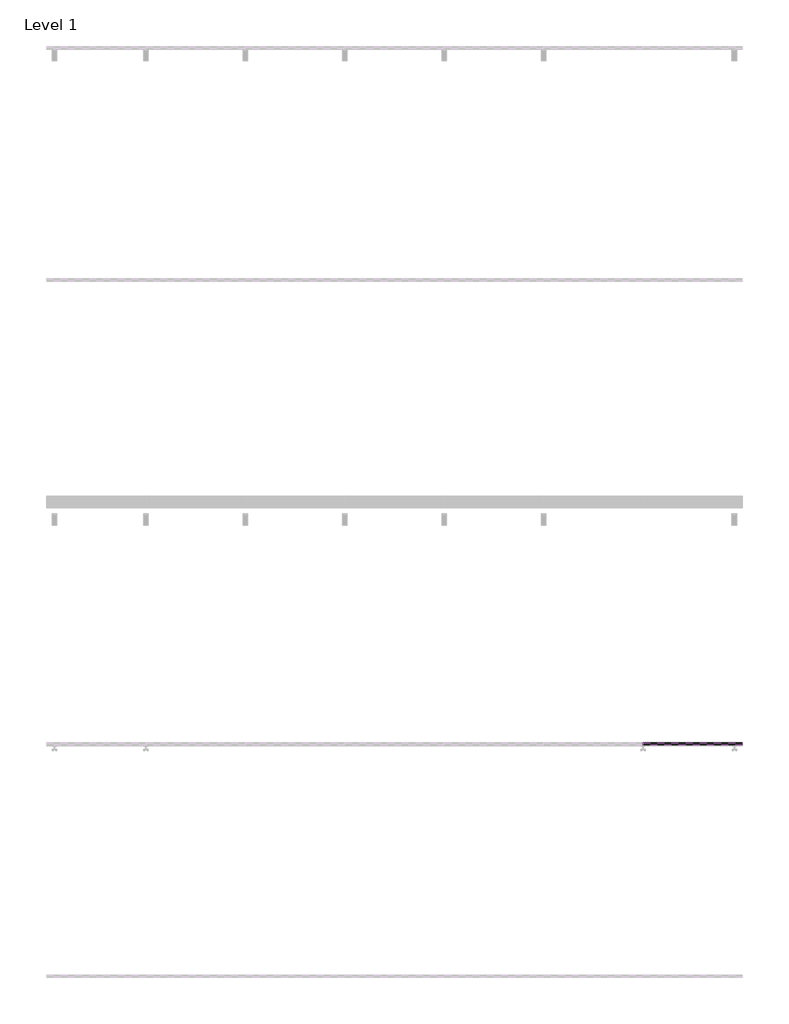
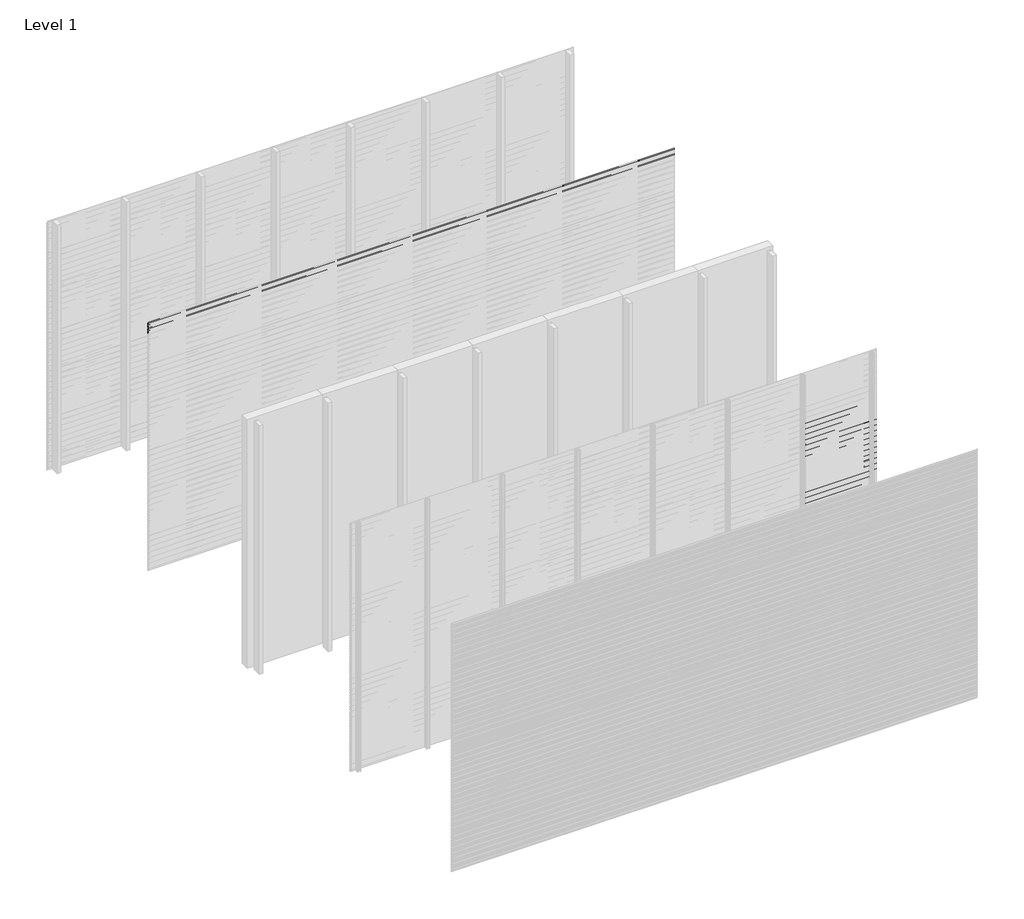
# One storey, part 31 of 96: 77 proxies.
"""IFC4 building model written with IfcOpenShell, lengths in millimetres."""

from ifc_helpers import new_model, si_unit, frame, origin, place, context, project, spatial, polyline, outline, extrude, element, save

model = new_model("IFC4")

# Units and contexts
model_context = context("Model", 3, world=origin())
ifc_project = project(units=[si_unit("LENGTHUNIT", "METRE", prefix="MILLI")], contexts=[model_context])

# Site, building, storey
site = spatial("IfcSite", under=ifc_project)
building = spatial("IfcBuilding", under=site)
storey = spatial("IfcBuildingStorey", under=building, Name="Level 1", Elevation=0.0)

# Proxies
placement = place(None, origin())
element("IfcBuildingElementProxy", 1, Name="Wall Sweeps", at=placement, inside=storey, context=model_context, shape_type="SweptSolid", body=[
    extrude(outline(polyline([(-37977.6, 2971.7655033), (-37977.6, 2957.4779188), (-37982.4114965, 2954.7), (-37982.4114965, 2955.9701706), (-37978.85, 2958.0264016), (-37978.85, 2971.0437382), (-37998.0, 2982.1000799), (-37998.0, 2997.0), (-37996.75, 2997.0), (-37996.75, 2982.8217609), (-37977.6, 2971.7655033)])), frame((0.0, 0.0, 0.0), z_axis=(1.0, 0.0, 0.0), x_axis=(0.0, 1.0, 0.0)), (0.0, 0.0, 1.0), 6000.0),
])
element("IfcBuildingElementProxy", 2, Name="Wall Sweeps", at=placement, inside=storey, context=model_context, shape_type="SweptSolid", body=[
    extrude(outline(polyline([(-37977.6, 2938.4655033), (-37977.6, 2924.1779188), (-37982.4114965, 2921.4), (-37982.4114965, 2922.6701706), (-37978.85, 2924.7264016), (-37978.85, 2937.7437382), (-37998.0, 2948.8000799), (-37998.0, 2963.7), (-37996.75, 2963.7), (-37996.75, 2949.5217609), (-37977.6, 2938.4655033)])), frame((0.0, 0.0, 0.0), z_axis=(1.0, 0.0, 0.0), x_axis=(0.0, 1.0, 0.0)), (0.0, 0.0, 1.0), 6000.0),
])
element("IfcBuildingElementProxy", 3, Name="Wall Sweeps", at=placement, inside=storey, context=model_context, shape_type="SweptSolid", body=[
    extrude(outline(polyline([(-37977.6, 2905.1655033), (-37977.6, 2890.8779188), (-37982.4114965, 2888.1), (-37982.4114965, 2889.3701706), (-37978.85, 2891.4264016), (-37978.85, 2904.4437382), (-37998.0, 2915.5000799), (-37998.0, 2930.4), (-37996.75, 2930.4), (-37996.75, 2916.2217609), (-37977.6, 2905.1655033)])), frame((0.0, 0.0, 0.0), z_axis=(1.0, 0.0, 0.0), x_axis=(0.0, 1.0, 0.0)), (0.0, 0.0, 1.0), 6000.0),
])
element("IfcBuildingElementProxy", 4, Name="Wall Sweeps", at=placement, inside=storey, context=model_context, shape_type="SweptSolid", body=[
    extrude(outline(polyline([(-37977.6, 2871.8655033), (-37977.6, 2857.5779188), (-37982.4114965, 2854.8), (-37982.4114965, 2856.0701706), (-37978.85, 2858.1264016), (-37978.85, 2871.1437382), (-37998.0, 2882.2000799), (-37998.0, 2897.1), (-37996.75, 2897.1), (-37996.75, 2882.9217609), (-37977.6, 2871.8655033)])), frame((0.0, 0.0, 0.0), z_axis=(1.0, 0.0, 0.0), x_axis=(0.0, 1.0, 0.0)), (0.0, 0.0, 1.0), 6000.0),
])
element("IfcBuildingElementProxy", 5, Name="Wall Sweeps", at=placement, inside=storey, context=model_context, shape_type="SweptSolid", body=[
    extrude(outline(polyline([(-41977.6, 2405.6655033), (-41977.6, 2391.3779188), (-41982.4114965, 2388.6), (-41982.4114965, 2389.8701706), (-41978.85, 2391.9264016), (-41978.85, 2404.9437382), (-41998.0, 2416.0000799), (-41998.0, 2430.9), (-41996.75, 2430.9), (-41996.75, 2416.7217609), (-41977.6, 2405.6655033)])), frame((5142.8571429, 0.0, 0.0), z_axis=(1.0, 0.0, 0.0), x_axis=(0.0, 1.0, 0.0)), (0.0, 0.0, 1.0), 857.1428571),
])
element("IfcBuildingElementProxy", 6, Name="Wall Sweeps", at=placement, inside=storey, context=model_context, shape_type="SweptSolid", body=[
    extrude(outline(polyline([(-41977.6, 2372.3655033), (-41977.6, 2358.0779188), (-41982.4114965, 2355.3), (-41982.4114965, 2356.5701706), (-41978.85, 2358.6264016), (-41978.85, 2371.6437382), (-41998.0, 2382.7000799), (-41998.0, 2397.6), (-41996.75, 2397.6), (-41996.75, 2383.4217609), (-41977.6, 2372.3655033)])), frame((5142.8571429, 0.0, 0.0), z_axis=(1.0, 0.0, 0.0), x_axis=(0.0, 1.0, 0.0)), (0.0, 0.0, 1.0), 857.1428571),
])
element("IfcBuildingElementProxy", 7, Name="Wall Sweeps", at=placement, inside=storey, context=model_context, shape_type="SweptSolid", body=[
    extrude(outline(polyline([(-41977.6, 2339.0655033), (-41977.6, 2324.7779188), (-41982.4114965, 2322.0), (-41982.4114965, 2323.2701706), (-41978.85, 2325.3264016), (-41978.85, 2338.3437382), (-41998.0, 2349.4000799), (-41998.0, 2364.3), (-41996.75, 2364.3), (-41996.75, 2350.1217609), (-41977.6, 2339.0655033)])), frame((5142.8571429, 0.0, 0.0), z_axis=(1.0, 0.0, 0.0), x_axis=(0.0, 1.0, 0.0)), (0.0, 0.0, 1.0), 857.1428571),
])
element("IfcBuildingElementProxy", 8, Name="Wall Sweeps", at=placement, inside=storey, context=model_context, shape_type="SweptSolid", body=[
    extrude(outline(polyline([(-41977.6, 2305.7655033), (-41977.6, 2291.4779188), (-41982.4114965, 2288.7), (-41982.4114965, 2289.9701706), (-41978.85, 2292.0264016), (-41978.85, 2305.0437382), (-41998.0, 2316.1000799), (-41998.0, 2331.0), (-41996.75, 2331.0), (-41996.75, 2316.8217609), (-41977.6, 2305.7655033)])), frame((5142.8571429, 0.0, 0.0), z_axis=(1.0, 0.0, 0.0), x_axis=(0.0, 1.0, 0.0)), (0.0, 0.0, 1.0), 857.1428571),
])
element("IfcBuildingElementProxy", 9, Name="Wall Sweeps", at=placement, inside=storey, context=model_context, shape_type="SweptSolid", body=[
    extrude(outline(polyline([(-41977.6, 2272.4655033), (-41977.6, 2258.1779188), (-41982.4114965, 2255.4), (-41982.4114965, 2256.6701706), (-41978.85, 2258.7264016), (-41978.85, 2271.7437382), (-41998.0, 2282.8000799), (-41998.0, 2297.7), (-41996.75, 2297.7), (-41996.75, 2283.5217609), (-41977.6, 2272.4655033)])), frame((5142.8571429, 0.0, 0.0), z_axis=(1.0, 0.0, 0.0), x_axis=(0.0, 1.0, 0.0)), (0.0, 0.0, 1.0), 857.1428571),
])
element("IfcBuildingElementProxy", 10, Name="Wall Sweeps", at=placement, inside=storey, context=model_context, shape_type="SweptSolid", body=[
    extrude(outline(polyline([(-41977.6, 2239.1655033), (-41977.6, 2224.8779188), (-41982.4114965, 2222.1), (-41982.4114965, 2223.3701706), (-41978.85, 2225.4264016), (-41978.85, 2238.4437382), (-41998.0, 2249.5000799), (-41998.0, 2264.4), (-41996.75, 2264.4), (-41996.75, 2250.2217609), (-41977.6, 2239.1655033)])), frame((5142.8571429, 0.0, 0.0), z_axis=(1.0, 0.0, 0.0), x_axis=(0.0, 1.0, 0.0)), (0.0, 0.0, 1.0), 857.1428571),
])
element("IfcBuildingElementProxy", 11, Name="Wall Sweeps", at=placement, inside=storey, context=model_context, shape_type="SweptSolid", body=[
    extrude(outline(polyline([(-41977.6, 2205.8655033), (-41977.6, 2191.5779188), (-41982.4114965, 2188.8), (-41982.4114965, 2190.0701706), (-41978.85, 2192.1264016), (-41978.85, 2205.1437382), (-41998.0, 2216.2000799), (-41998.0, 2231.1), (-41996.75, 2231.1), (-41996.75, 2216.9217609), (-41977.6, 2205.8655033)])), frame((5142.8571429, 0.0, 0.0), z_axis=(1.0, 0.0, 0.0), x_axis=(0.0, 1.0, 0.0)), (0.0, 0.0, 1.0), 857.1428571),
])
element("IfcBuildingElementProxy", 12, Name="Wall Sweeps", at=placement, inside=storey, context=model_context, shape_type="SweptSolid", body=[
    extrude(outline(polyline([(-41977.6, 2172.5655033), (-41977.6, 2158.2779188), (-41982.4114965, 2155.5), (-41982.4114965, 2156.7701706), (-41978.85, 2158.8264016), (-41978.85, 2171.8437382), (-41998.0, 2182.9000799), (-41998.0, 2197.8), (-41996.75, 2197.8), (-41996.75, 2183.6217609), (-41977.6, 2172.5655033)])), frame((5142.8571429, 0.0, 0.0), z_axis=(1.0, 0.0, 0.0), x_axis=(0.0, 1.0, 0.0)), (0.0, 0.0, 1.0), 857.1428571),
])
element("IfcBuildingElementProxy", 13, Name="Wall Sweeps", at=placement, inside=storey, context=model_context, shape_type="SweptSolid", body=[
    extrude(outline(polyline([(-41977.6, 2139.2655033), (-41977.6, 2124.9779188), (-41982.4114965, 2122.2), (-41982.4114965, 2123.4701706), (-41978.85, 2125.5264016), (-41978.85, 2138.5437382), (-41998.0, 2149.6000799), (-41998.0, 2164.5), (-41996.75, 2164.5), (-41996.75, 2150.3217609), (-41977.6, 2139.2655033)])), frame((5142.8571429, 0.0, 0.0), z_axis=(1.0, 0.0, 0.0), x_axis=(0.0, 1.0, 0.0)), (0.0, 0.0, 1.0), 857.1428571),
])
element("IfcBuildingElementProxy", 14, Name="Wall Sweeps", at=placement, inside=storey, context=model_context, shape_type="SweptSolid", body=[
    extrude(outline(polyline([(-41977.6, 2105.9655033), (-41977.6, 2091.6779188), (-41982.4114965, 2088.9), (-41982.4114965, 2090.1701706), (-41978.85, 2092.2264016), (-41978.85, 2105.2437382), (-41998.0, 2116.3000799), (-41998.0, 2131.2), (-41996.75, 2131.2), (-41996.75, 2117.0217609), (-41977.6, 2105.9655033)])), frame((5142.8571429, 0.0, 0.0), z_axis=(1.0, 0.0, 0.0), x_axis=(0.0, 1.0, 0.0)), (0.0, 0.0, 1.0), 857.1428571),
])
element("IfcBuildingElementProxy", 15, Name="Wall Sweeps", at=placement, inside=storey, context=model_context, shape_type="SweptSolid", body=[
    extrude(outline(polyline([(-41977.6, 2072.6655033), (-41977.6, 2058.3779188), (-41982.4114965, 2055.6), (-41982.4114965, 2056.8701706), (-41978.85, 2058.9264016), (-41978.85, 2071.9437382), (-41998.0, 2083.0000799), (-41998.0, 2097.9), (-41996.75, 2097.9), (-41996.75, 2083.7217609), (-41977.6, 2072.6655033)])), frame((5142.8571429, 0.0, 0.0), z_axis=(1.0, 0.0, 0.0), x_axis=(0.0, 1.0, 0.0)), (0.0, 0.0, 1.0), 857.1428571),
])
element("IfcBuildingElementProxy", 16, Name="Wall Sweeps", at=placement, inside=storey, context=model_context, shape_type="SweptSolid", body=[
    extrude(outline(polyline([(-41977.6, 2039.3655033), (-41977.6, 2025.0779188), (-41982.4114965, 2022.3), (-41982.4114965, 2023.5701706), (-41978.85, 2025.6264016), (-41978.85, 2038.6437382), (-41998.0, 2049.7000799), (-41998.0, 2064.6), (-41996.75, 2064.6), (-41996.75, 2050.4217609), (-41977.6, 2039.3655033)])), frame((5142.8571429, 0.0, 0.0), z_axis=(1.0, 0.0, 0.0), x_axis=(0.0, 1.0, 0.0)), (0.0, 0.0, 1.0), 857.1428571),
])
element("IfcBuildingElementProxy", 17, Name="Wall Sweeps", at=placement, inside=storey, context=model_context, shape_type="SweptSolid", body=[
    extrude(outline(polyline([(-41977.6, 2006.0655033), (-41977.6, 1991.7779188), (-41982.4114965, 1989.0), (-41982.4114965, 1990.2701706), (-41978.85, 1992.3264016), (-41978.85, 2005.3437382), (-41998.0, 2016.4000799), (-41998.0, 2031.3), (-41996.75, 2031.3), (-41996.75, 2017.1217609), (-41977.6, 2006.0655033)])), frame((5142.8571429, 0.0, 0.0), z_axis=(1.0, 0.0, 0.0), x_axis=(0.0, 1.0, 0.0)), (0.0, 0.0, 1.0), 857.1428571),
])
element("IfcBuildingElementProxy", 18, Name="Wall Sweeps", at=placement, inside=storey, context=model_context, shape_type="SweptSolid", body=[
    extrude(outline(polyline([(-41977.6, 1972.7655033), (-41977.6, 1958.4779188), (-41982.4114965, 1955.7), (-41982.4114965, 1956.9701706), (-41978.85, 1959.0264016), (-41978.85, 1972.0437382), (-41998.0, 1983.1000799), (-41998.0, 1998.0), (-41996.75, 1998.0), (-41996.75, 1983.8217609), (-41977.6, 1972.7655033)])), frame((5142.8571429, 0.0, 0.0), z_axis=(1.0, 0.0, 0.0), x_axis=(0.0, 1.0, 0.0)), (0.0, 0.0, 1.0), 857.1428571),
])
element("IfcBuildingElementProxy", 19, Name="Wall Sweeps", at=placement, inside=storey, context=model_context, shape_type="SweptSolid", body=[
    extrude(outline(polyline([(-41977.6, 1939.4655033), (-41977.6, 1925.1779188), (-41982.4114965, 1922.4), (-41982.4114965, 1923.6701706), (-41978.85, 1925.7264016), (-41978.85, 1938.7437382), (-41998.0, 1949.8000799), (-41998.0, 1964.7), (-41996.75, 1964.7), (-41996.75, 1950.5217609), (-41977.6, 1939.4655033)])), frame((5142.8571429, 0.0, 0.0), z_axis=(1.0, 0.0, 0.0), x_axis=(0.0, 1.0, 0.0)), (0.0, 0.0, 1.0), 857.1428571),
])
element("IfcBuildingElementProxy", 20, Name="Wall Sweeps", at=placement, inside=storey, context=model_context, shape_type="SweptSolid", body=[
    extrude(outline(polyline([(-41977.6, 1906.1655033), (-41977.6, 1891.8779188), (-41982.4114965, 1889.1), (-41982.4114965, 1890.3701706), (-41978.85, 1892.4264016), (-41978.85, 1905.4437382), (-41998.0, 1916.5000799), (-41998.0, 1931.4), (-41996.75, 1931.4), (-41996.75, 1917.2217609), (-41977.6, 1906.1655033)])), frame((5142.8571429, 0.0, 0.0), z_axis=(1.0, 0.0, 0.0), x_axis=(0.0, 1.0, 0.0)), (0.0, 0.0, 1.0), 857.1428571),
])
element("IfcBuildingElementProxy", 21, Name="Wall Sweeps", at=placement, inside=storey, context=model_context, shape_type="SweptSolid", body=[
    extrude(outline(polyline([(-41977.6, 1872.8655033), (-41977.6, 1858.5779188), (-41982.4114965, 1855.8), (-41982.4114965, 1857.0701706), (-41978.85, 1859.1264016), (-41978.85, 1872.1437382), (-41998.0, 1883.2000799), (-41998.0, 1898.1), (-41996.75, 1898.1), (-41996.75, 1883.9217609), (-41977.6, 1872.8655033)])), frame((5142.8571429, 0.0, 0.0), z_axis=(1.0, 0.0, 0.0), x_axis=(0.0, 1.0, 0.0)), (0.0, 0.0, 1.0), 857.1428571),
])
element("IfcBuildingElementProxy", 22, Name="Wall Sweeps", at=placement, inside=storey, context=model_context, shape_type="SweptSolid", body=[
    extrude(outline(polyline([(-41977.6, 1839.5655033), (-41977.6, 1825.2779188), (-41982.4114965, 1822.5), (-41982.4114965, 1823.7701706), (-41978.85, 1825.8264016), (-41978.85, 1838.8437382), (-41998.0, 1849.9000799), (-41998.0, 1864.8), (-41996.75, 1864.8), (-41996.75, 1850.6217609), (-41977.6, 1839.5655033)])), frame((5142.8571429, 0.0, 0.0), z_axis=(1.0, 0.0, 0.0), x_axis=(0.0, 1.0, 0.0)), (0.0, 0.0, 1.0), 857.1428571),
])
element("IfcBuildingElementProxy", 23, Name="Wall Sweeps", at=placement, inside=storey, context=model_context, shape_type="SweptSolid", body=[
    extrude(outline(polyline([(-41977.6, 1806.2655033), (-41977.6, 1791.9779188), (-41982.4114965, 1789.2), (-41982.4114965, 1790.4701706), (-41978.85, 1792.5264016), (-41978.85, 1805.5437382), (-41998.0, 1816.6000799), (-41998.0, 1831.5), (-41996.75, 1831.5), (-41996.75, 1817.3217609), (-41977.6, 1806.2655033)])), frame((5142.8571429, 0.0, 0.0), z_axis=(1.0, 0.0, 0.0), x_axis=(0.0, 1.0, 0.0)), (0.0, 0.0, 1.0), 857.1428571),
])
element("IfcBuildingElementProxy", 24, Name="Wall Sweeps", at=placement, inside=storey, context=model_context, shape_type="SweptSolid", body=[
    extrude(outline(polyline([(-41977.6, 1772.9655033), (-41977.6, 1758.6779188), (-41982.4114965, 1755.9), (-41982.4114965, 1757.1701706), (-41978.85, 1759.2264016), (-41978.85, 1772.2437382), (-41998.0, 1783.3000799), (-41998.0, 1798.2), (-41996.75, 1798.2), (-41996.75, 1784.0217609), (-41977.6, 1772.9655033)])), frame((5142.8571429, 0.0, 0.0), z_axis=(1.0, 0.0, 0.0), x_axis=(0.0, 1.0, 0.0)), (0.0, 0.0, 1.0), 857.1428571),
])
element("IfcBuildingElementProxy", 25, Name="Wall Sweeps", at=placement, inside=storey, context=model_context, shape_type="SweptSolid", body=[
    extrude(outline(polyline([(-41977.6, 1739.6655033), (-41977.6, 1725.3779188), (-41982.4114965, 1722.6), (-41982.4114965, 1723.8701706), (-41978.85, 1725.9264016), (-41978.85, 1738.9437382), (-41998.0, 1750.0000799), (-41998.0, 1764.9), (-41996.75, 1764.9), (-41996.75, 1750.7217609), (-41977.6, 1739.6655033)])), frame((5142.8571429, 0.0, 0.0), z_axis=(1.0, 0.0, 0.0), x_axis=(0.0, 1.0, 0.0)), (0.0, 0.0, 1.0), 857.1428571),
])
element("IfcBuildingElementProxy", 26, Name="Wall Sweeps", at=placement, inside=storey, context=model_context, shape_type="SweptSolid", body=[
    extrude(outline(polyline([(-41977.6, 1706.3655033), (-41977.6, 1692.0779188), (-41982.4114965, 1689.3), (-41982.4114965, 1690.5701706), (-41978.85, 1692.6264016), (-41978.85, 1705.6437382), (-41998.0, 1716.7000799), (-41998.0, 1731.6), (-41996.75, 1731.6), (-41996.75, 1717.4217609), (-41977.6, 1706.3655033)])), frame((5142.8571429, 0.0, 0.0), z_axis=(1.0, 0.0, 0.0), x_axis=(0.0, 1.0, 0.0)), (0.0, 0.0, 1.0), 857.1428571),
])
element("IfcBuildingElementProxy", 27, Name="Wall Sweeps", at=placement, inside=storey, context=model_context, shape_type="SweptSolid", body=[
    extrude(outline(polyline([(-41977.6, 1673.0655033), (-41977.6, 1658.7779188), (-41982.4114965, 1656.0), (-41982.4114965, 1657.2701706), (-41978.85, 1659.3264016), (-41978.85, 1672.3437382), (-41998.0, 1683.4000799), (-41998.0, 1698.3), (-41996.75, 1698.3), (-41996.75, 1684.1217609), (-41977.6, 1673.0655033)])), frame((5142.8571429, 0.0, 0.0), z_axis=(1.0, 0.0, 0.0), x_axis=(0.0, 1.0, 0.0)), (0.0, 0.0, 1.0), 857.1428571),
])
element("IfcBuildingElementProxy", 28, Name="Wall Sweeps", at=placement, inside=storey, context=model_context, shape_type="SweptSolid", body=[
    extrude(outline(polyline([(-41977.6, 1639.7655033), (-41977.6, 1625.4779188), (-41982.4114965, 1622.7), (-41982.4114965, 1623.9701706), (-41978.85, 1626.0264016), (-41978.85, 1639.0437382), (-41998.0, 1650.1000799), (-41998.0, 1665.0), (-41996.75, 1665.0), (-41996.75, 1650.8217609), (-41977.6, 1639.7655033)])), frame((5142.8571429, 0.0, 0.0), z_axis=(1.0, 0.0, 0.0), x_axis=(0.0, 1.0, 0.0)), (0.0, 0.0, 1.0), 857.1428571),
])
element("IfcBuildingElementProxy", 29, Name="Wall Sweeps", at=placement, inside=storey, context=model_context, shape_type="SweptSolid", body=[
    extrude(outline(polyline([(-41977.6, 1606.4655033), (-41977.6, 1592.1779188), (-41982.4114965, 1589.4), (-41982.4114965, 1590.6701706), (-41978.85, 1592.7264016), (-41978.85, 1605.7437382), (-41998.0, 1616.8000799), (-41998.0, 1631.7), (-41996.75, 1631.7), (-41996.75, 1617.5217609), (-41977.6, 1606.4655033)])), frame((5142.8571429, 0.0, 0.0), z_axis=(1.0, 0.0, 0.0), x_axis=(0.0, 1.0, 0.0)), (0.0, 0.0, 1.0), 857.1428571),
])
element("IfcBuildingElementProxy", 30, Name="Wall Sweeps", at=placement, inside=storey, context=model_context, shape_type="SweptSolid", body=[
    extrude(outline(polyline([(-41977.6, 1573.1655033), (-41977.6, 1558.8779188), (-41982.4114965, 1556.1), (-41982.4114965, 1557.3701706), (-41978.85, 1559.4264016), (-41978.85, 1572.4437382), (-41998.0, 1583.5000799), (-41998.0, 1598.4), (-41996.75, 1598.4), (-41996.75, 1584.2217609), (-41977.6, 1573.1655033)])), frame((5142.8571429, 0.0, 0.0), z_axis=(1.0, 0.0, 0.0), x_axis=(0.0, 1.0, 0.0)), (0.0, 0.0, 1.0), 857.1428571),
])
element("IfcBuildingElementProxy", 31, Name="Wall Sweeps", at=placement, inside=storey, context=model_context, shape_type="SweptSolid", body=[
    extrude(outline(polyline([(-41977.6, 1539.8655033), (-41977.6, 1525.5779188), (-41982.4114965, 1522.8), (-41982.4114965, 1524.0701706), (-41978.85, 1526.1264016), (-41978.85, 1539.1437382), (-41998.0, 1550.2000799), (-41998.0, 1565.1), (-41996.75, 1565.1), (-41996.75, 1550.9217609), (-41977.6, 1539.8655033)])), frame((5142.8571429, 0.0, 0.0), z_axis=(1.0, 0.0, 0.0), x_axis=(0.0, 1.0, 0.0)), (0.0, 0.0, 1.0), 857.1428571),
])
element("IfcBuildingElementProxy", 32, Name="Wall Sweeps", at=placement, inside=storey, context=model_context, shape_type="SweptSolid", body=[
    extrude(outline(polyline([(-41977.6, 1506.5655033), (-41977.6, 1492.2779188), (-41982.4114965, 1489.5), (-41982.4114965, 1490.7701706), (-41978.85, 1492.8264016), (-41978.85, 1505.8437382), (-41998.0, 1516.9000799), (-41998.0, 1531.8), (-41996.75, 1531.8), (-41996.75, 1517.6217609), (-41977.6, 1506.5655033)])), frame((5142.8571429, 0.0, 0.0), z_axis=(1.0, 0.0, 0.0), x_axis=(0.0, 1.0, 0.0)), (0.0, 0.0, 1.0), 857.1428571),
])
element("IfcBuildingElementProxy", 33, Name="Wall Sweeps", at=placement, inside=storey, context=model_context, shape_type="SweptSolid", body=[
    extrude(outline(polyline([(-41977.6, 1473.2655033), (-41977.6, 1458.9779188), (-41982.4114965, 1456.2), (-41982.4114965, 1457.4701706), (-41978.85, 1459.5264016), (-41978.85, 1472.5437382), (-41998.0, 1483.6000799), (-41998.0, 1498.5), (-41996.75, 1498.5), (-41996.75, 1484.3217609), (-41977.6, 1473.2655033)])), frame((5142.8571429, 0.0, 0.0), z_axis=(1.0, 0.0, 0.0), x_axis=(0.0, 1.0, 0.0)), (0.0, 0.0, 1.0), 857.1428571),
])
element("IfcBuildingElementProxy", 34, Name="Wall Sweeps", at=placement, inside=storey, context=model_context, shape_type="SweptSolid", body=[
    extrude(outline(polyline([(-41977.6, 1439.9655033), (-41977.6, 1425.6779188), (-41982.4114965, 1422.9), (-41982.4114965, 1424.1701706), (-41978.85, 1426.2264016), (-41978.85, 1439.2437382), (-41998.0, 1450.3000799), (-41998.0, 1465.2), (-41996.75, 1465.2), (-41996.75, 1451.0217609), (-41977.6, 1439.9655033)])), frame((5142.8571429, 0.0, 0.0), z_axis=(1.0, 0.0, 0.0), x_axis=(0.0, 1.0, 0.0)), (0.0, 0.0, 1.0), 857.1428571),
])
element("IfcBuildingElementProxy", 35, Name="Wall Sweeps", at=placement, inside=storey, context=model_context, shape_type="SweptSolid", body=[
    extrude(outline(polyline([(-41977.6, 1406.6655033), (-41977.6, 1392.3779188), (-41982.4114965, 1389.6), (-41982.4114965, 1390.8701706), (-41978.85, 1392.9264016), (-41978.85, 1405.9437382), (-41998.0, 1417.0000799), (-41998.0, 1431.9), (-41996.75, 1431.9), (-41996.75, 1417.7217609), (-41977.6, 1406.6655033)])), frame((5142.8571429, 0.0, 0.0), z_axis=(1.0, 0.0, 0.0), x_axis=(0.0, 1.0, 0.0)), (0.0, 0.0, 1.0), 857.1428571),
])
element("IfcBuildingElementProxy", 36, Name="Wall Sweeps", at=placement, inside=storey, context=model_context, shape_type="SweptSolid", body=[
    extrude(outline(polyline([(-41977.6, 1373.3655033), (-41977.6, 1359.0779188), (-41982.4114965, 1356.3), (-41982.4114965, 1357.5701706), (-41978.85, 1359.6264016), (-41978.85, 1372.6437382), (-41998.0, 1383.7000799), (-41998.0, 1398.6), (-41996.75, 1398.6), (-41996.75, 1384.4217609), (-41977.6, 1373.3655033)])), frame((5142.8571429, 0.0, 0.0), z_axis=(1.0, 0.0, 0.0), x_axis=(0.0, 1.0, 0.0)), (0.0, 0.0, 1.0), 857.1428571),
])
element("IfcBuildingElementProxy", 37, Name="Wall Sweeps", at=placement, inside=storey, context=model_context, shape_type="SweptSolid", body=[
    extrude(outline(polyline([(-41977.6, 1340.0655033), (-41977.6, 1325.7779188), (-41982.4114965, 1323.0), (-41982.4114965, 1324.2701706), (-41978.85, 1326.3264016), (-41978.85, 1339.3437382), (-41998.0, 1350.4000799), (-41998.0, 1365.3), (-41996.75, 1365.3), (-41996.75, 1351.1217609), (-41977.6, 1340.0655033)])), frame((5142.8571429, 0.0, 0.0), z_axis=(1.0, 0.0, 0.0), x_axis=(0.0, 1.0, 0.0)), (0.0, 0.0, 1.0), 857.1428571),
])
element("IfcBuildingElementProxy", 38, Name="Wall Sweeps", at=placement, inside=storey, context=model_context, shape_type="SweptSolid", body=[
    extrude(outline(polyline([(-41977.6, 1306.7655033), (-41977.6, 1292.4779188), (-41982.4114965, 1289.7), (-41982.4114965, 1290.9701706), (-41978.85, 1293.0264016), (-41978.85, 1306.0437382), (-41998.0, 1317.1000799), (-41998.0, 1332.0), (-41996.75, 1332.0), (-41996.75, 1317.8217609), (-41977.6, 1306.7655033)])), frame((5142.8571429, 0.0, 0.0), z_axis=(1.0, 0.0, 0.0), x_axis=(0.0, 1.0, 0.0)), (0.0, 0.0, 1.0), 857.1428571),
])
element("IfcBuildingElementProxy", 39, Name="Wall Sweeps", at=placement, inside=storey, context=model_context, shape_type="SweptSolid", body=[
    extrude(outline(polyline([(-41977.6, 1273.4655033), (-41977.6, 1259.1779188), (-41982.4114965, 1256.4), (-41982.4114965, 1257.6701706), (-41978.85, 1259.7264016), (-41978.85, 1272.7437382), (-41998.0, 1283.8000799), (-41998.0, 1298.7), (-41996.75, 1298.7), (-41996.75, 1284.5217609), (-41977.6, 1273.4655033)])), frame((5142.8571429, 0.0, 0.0), z_axis=(1.0, 0.0, 0.0), x_axis=(0.0, 1.0, 0.0)), (0.0, 0.0, 1.0), 857.1428571),
])
element("IfcBuildingElementProxy", 40, Name="Wall Sweeps", at=placement, inside=storey, context=model_context, shape_type="SweptSolid", body=[
    extrude(outline(polyline([(-41977.6, 1240.1655033), (-41977.6, 1225.8779188), (-41982.4114965, 1223.1), (-41982.4114965, 1224.3701706), (-41978.85, 1226.4264016), (-41978.85, 1239.4437382), (-41998.0, 1250.5000799), (-41998.0, 1265.4), (-41996.75, 1265.4), (-41996.75, 1251.2217609), (-41977.6, 1240.1655033)])), frame((5142.8571429, 0.0, 0.0), z_axis=(1.0, 0.0, 0.0), x_axis=(0.0, 1.0, 0.0)), (0.0, 0.0, 1.0), 857.1428571),
])
element("IfcBuildingElementProxy", 41, Name="Wall Sweeps", at=placement, inside=storey, context=model_context, shape_type="SweptSolid", body=[
    extrude(outline(polyline([(-41977.6, 1206.8655033), (-41977.6, 1192.5779188), (-41982.4114965, 1189.8), (-41982.4114965, 1191.0701706), (-41978.85, 1193.1264016), (-41978.85, 1206.1437382), (-41998.0, 1217.2000799), (-41998.0, 1232.1), (-41996.75, 1232.1), (-41996.75, 1217.9217609), (-41977.6, 1206.8655033)])), frame((5142.8571429, 0.0, 0.0), z_axis=(1.0, 0.0, 0.0), x_axis=(0.0, 1.0, 0.0)), (0.0, 0.0, 1.0), 857.1428571),
])
element("IfcBuildingElementProxy", 42, Name="Wall Sweeps", at=placement, inside=storey, context=model_context, shape_type="SweptSolid", body=[
    extrude(outline(polyline([(-41977.6, 1173.5655033), (-41977.6, 1159.2779188), (-41982.4114965, 1156.5), (-41982.4114965, 1157.7701706), (-41978.85, 1159.8264016), (-41978.85, 1172.8437382), (-41998.0, 1183.9000799), (-41998.0, 1198.8), (-41996.75, 1198.8), (-41996.75, 1184.6217609), (-41977.6, 1173.5655033)])), frame((5142.8571429, 0.0, 0.0), z_axis=(1.0, 0.0, 0.0), x_axis=(0.0, 1.0, 0.0)), (0.0, 0.0, 1.0), 857.1428571),
])
element("IfcBuildingElementProxy", 43, Name="Wall Sweeps", at=placement, inside=storey, context=model_context, shape_type="SweptSolid", body=[
    extrude(outline(polyline([(-41977.6, 1140.2655033), (-41977.6, 1125.9779188), (-41982.4114965, 1123.2), (-41982.4114965, 1124.4701706), (-41978.85, 1126.5264016), (-41978.85, 1139.5437382), (-41998.0, 1150.6000799), (-41998.0, 1165.5), (-41996.75, 1165.5), (-41996.75, 1151.3217609), (-41977.6, 1140.2655033)])), frame((5142.8571429, 0.0, 0.0), z_axis=(1.0, 0.0, 0.0), x_axis=(0.0, 1.0, 0.0)), (0.0, 0.0, 1.0), 857.1428571),
])
element("IfcBuildingElementProxy", 44, Name="Wall Sweeps", at=placement, inside=storey, context=model_context, shape_type="SweptSolid", body=[
    extrude(outline(polyline([(-41977.6, 1106.9655033), (-41977.6, 1092.6779188), (-41982.4114965, 1089.9), (-41982.4114965, 1091.1701706), (-41978.85, 1093.2264016), (-41978.85, 1106.2437382), (-41998.0, 1117.3000799), (-41998.0, 1132.2), (-41996.75, 1132.2), (-41996.75, 1118.0217609), (-41977.6, 1106.9655033)])), frame((5142.8571429, 0.0, 0.0), z_axis=(1.0, 0.0, 0.0), x_axis=(0.0, 1.0, 0.0)), (0.0, 0.0, 1.0), 857.1428571),
])
element("IfcBuildingElementProxy", 45, Name="Wall Sweeps", at=placement, inside=storey, context=model_context, shape_type="SweptSolid", body=[
    extrude(outline(polyline([(-41977.6, 1073.6655033), (-41977.6, 1059.3779188), (-41982.4114965, 1056.6), (-41982.4114965, 1057.8701706), (-41978.85, 1059.9264016), (-41978.85, 1072.9437382), (-41998.0, 1084.0000799), (-41998.0, 1098.9), (-41996.75, 1098.9), (-41996.75, 1084.7217609), (-41977.6, 1073.6655033)])), frame((5142.8571429, 0.0, 0.0), z_axis=(1.0, 0.0, 0.0), x_axis=(0.0, 1.0, 0.0)), (0.0, 0.0, 1.0), 857.1428571),
])
element("IfcBuildingElementProxy", 46, Name="Wall Sweeps", at=placement, inside=storey, context=model_context, shape_type="SweptSolid", body=[
    extrude(outline(polyline([(-41977.6, 1040.3655033), (-41977.6, 1026.0779188), (-41982.4114965, 1023.3), (-41982.4114965, 1024.5701706), (-41978.85, 1026.6264016), (-41978.85, 1039.6437382), (-41998.0, 1050.7000799), (-41998.0, 1065.6), (-41996.75, 1065.6), (-41996.75, 1051.4217609), (-41977.6, 1040.3655033)])), frame((5142.8571429, 0.0, 0.0), z_axis=(1.0, 0.0, 0.0), x_axis=(0.0, 1.0, 0.0)), (0.0, 0.0, 1.0), 857.1428571),
])
element("IfcBuildingElementProxy", 47, Name="Wall Sweeps", at=placement, inside=storey, context=model_context, shape_type="SweptSolid", body=[
    extrude(outline(polyline([(-41977.6, 1007.0655033), (-41977.6, 992.7779188), (-41982.4114965, 990.0), (-41982.4114965, 991.2701706), (-41978.85, 993.3264016), (-41978.85, 1006.3437382), (-41998.0, 1017.4000799), (-41998.0, 1032.3), (-41996.75, 1032.3), (-41996.75, 1018.1217609), (-41977.6, 1007.0655033)])), frame((5142.8571429, 0.0, 0.0), z_axis=(1.0, 0.0, 0.0), x_axis=(0.0, 1.0, 0.0)), (0.0, 0.0, 1.0), 857.1428571),
])
element("IfcBuildingElementProxy", 48, Name="Wall Sweeps", at=placement, inside=storey, context=model_context, shape_type="SweptSolid", body=[
    extrude(outline(polyline([(-41977.6, 973.7655033), (-41977.6, 959.4779188), (-41982.4114965, 956.7), (-41982.4114965, 957.9701706), (-41978.85, 960.0264016), (-41978.85, 973.0437382), (-41998.0, 984.1000799), (-41998.0, 999.0), (-41996.75, 999.0), (-41996.75, 984.8217609), (-41977.6, 973.7655033)])), frame((5142.8571429, 0.0, 0.0), z_axis=(1.0, 0.0, 0.0), x_axis=(0.0, 1.0, 0.0)), (0.0, 0.0, 1.0), 857.1428571),
])
element("IfcBuildingElementProxy", 49, Name="Wall Sweeps", at=placement, inside=storey, context=model_context, shape_type="SweptSolid", body=[
    extrude(outline(polyline([(-41977.6, 940.4655033), (-41977.6, 926.1779188), (-41982.4114965, 923.4), (-41982.4114965, 924.6701706), (-41978.85, 926.7264016), (-41978.85, 939.7437382), (-41998.0, 950.8000799), (-41998.0, 965.7), (-41996.75, 965.7), (-41996.75, 951.5217609), (-41977.6, 940.4655033)])), frame((5142.8571429, 0.0, 0.0), z_axis=(1.0, 0.0, 0.0), x_axis=(0.0, 1.0, 0.0)), (0.0, 0.0, 1.0), 857.1428571),
])
element("IfcBuildingElementProxy", 50, Name="Wall Sweeps", at=placement, inside=storey, context=model_context, shape_type="SweptSolid", body=[
    extrude(outline(polyline([(-41977.6, 907.1655033), (-41977.6, 892.8779188), (-41982.4114965, 890.1), (-41982.4114965, 891.3701706), (-41978.85, 893.4264016), (-41978.85, 906.4437382), (-41998.0, 917.5000799), (-41998.0, 932.4), (-41996.75, 932.4), (-41996.75, 918.2217609), (-41977.6, 907.1655033)])), frame((5142.8571429, 0.0, 0.0), z_axis=(1.0, 0.0, 0.0), x_axis=(0.0, 1.0, 0.0)), (0.0, 0.0, 1.0), 857.1428571),
])
element("IfcBuildingElementProxy", 51, Name="Wall Sweeps", at=placement, inside=storey, context=model_context, shape_type="SweptSolid", body=[
    extrude(outline(polyline([(-41977.6, 873.8655033), (-41977.6, 859.5779188), (-41982.4114965, 856.8), (-41982.4114965, 858.0701706), (-41978.85, 860.1264016), (-41978.85, 873.1437382), (-41998.0, 884.2000799), (-41998.0, 899.1), (-41996.75, 899.1), (-41996.75, 884.9217609), (-41977.6, 873.8655033)])), frame((5142.8571429, 0.0, 0.0), z_axis=(1.0, 0.0, 0.0), x_axis=(0.0, 1.0, 0.0)), (0.0, 0.0, 1.0), 857.1428571),
])
element("IfcBuildingElementProxy", 52, Name="Wall Sweeps", at=placement, inside=storey, context=model_context, shape_type="SweptSolid", body=[
    extrude(outline(polyline([(-41977.6, 840.5655033), (-41977.6, 826.2779188), (-41982.4114965, 823.5), (-41982.4114965, 824.7701706), (-41978.85, 826.8264016), (-41978.85, 839.8437382), (-41998.0, 850.9000799), (-41998.0, 865.8), (-41996.75, 865.8), (-41996.75, 851.6217609), (-41977.6, 840.5655033)])), frame((5142.8571429, 0.0, 0.0), z_axis=(1.0, 0.0, 0.0), x_axis=(0.0, 1.0, 0.0)), (0.0, 0.0, 1.0), 857.1428571),
])
element("IfcBuildingElementProxy", 53, Name="Wall Sweeps", at=placement, inside=storey, context=model_context, shape_type="SweptSolid", body=[
    extrude(outline(polyline([(-41977.6, 807.2655033), (-41977.6, 792.9779188), (-41982.4114965, 790.2), (-41982.4114965, 791.4701706), (-41978.85, 793.5264016), (-41978.85, 806.5437382), (-41998.0, 817.6000799), (-41998.0, 832.5), (-41996.75, 832.5), (-41996.75, 818.3217609), (-41977.6, 807.2655033)])), frame((5142.8571429, 0.0, 0.0), z_axis=(1.0, 0.0, 0.0), x_axis=(0.0, 1.0, 0.0)), (0.0, 0.0, 1.0), 857.1428571),
])
element("IfcBuildingElementProxy", 54, Name="Wall Sweeps", at=placement, inside=storey, context=model_context, shape_type="SweptSolid", body=[
    extrude(outline(polyline([(-41977.6, 773.9655033), (-41977.6, 759.6779188), (-41982.4114965, 756.9), (-41982.4114965, 758.1701706), (-41978.85, 760.2264016), (-41978.85, 773.2437382), (-41998.0, 784.3000799), (-41998.0, 799.2), (-41996.75, 799.2), (-41996.75, 785.0217609), (-41977.6, 773.9655033)])), frame((5142.8571429, 0.0, 0.0), z_axis=(1.0, 0.0, 0.0), x_axis=(0.0, 1.0, 0.0)), (0.0, 0.0, 1.0), 857.1428571),
])
element("IfcBuildingElementProxy", 55, Name="Wall Sweeps", at=placement, inside=storey, context=model_context, shape_type="SweptSolid", body=[
    extrude(outline(polyline([(-41977.6, 740.6655033), (-41977.6, 726.3779188), (-41982.4114965, 723.6), (-41982.4114965, 724.8701706), (-41978.85, 726.9264016), (-41978.85, 739.9437382), (-41998.0, 751.0000799), (-41998.0, 765.9), (-41996.75, 765.9), (-41996.75, 751.7217609), (-41977.6, 740.6655033)])), frame((5142.8571429, 0.0, 0.0), z_axis=(1.0, 0.0, 0.0), x_axis=(0.0, 1.0, 0.0)), (0.0, 0.0, 1.0), 857.1428571),
])
element("IfcBuildingElementProxy", 56, Name="Wall Sweeps", at=placement, inside=storey, context=model_context, shape_type="SweptSolid", body=[
    extrude(outline(polyline([(-41977.6, 707.3655033), (-41977.6, 693.0779188), (-41982.4114965, 690.3), (-41982.4114965, 691.5701706), (-41978.85, 693.6264016), (-41978.85, 706.6437382), (-41998.0, 717.7000799), (-41998.0, 732.6), (-41996.75, 732.6), (-41996.75, 718.4217609), (-41977.6, 707.3655033)])), frame((5142.8571429, 0.0, 0.0), z_axis=(1.0, 0.0, 0.0), x_axis=(0.0, 1.0, 0.0)), (0.0, 0.0, 1.0), 857.1428571),
])
element("IfcBuildingElementProxy", 57, Name="Wall Sweeps", at=placement, inside=storey, context=model_context, shape_type="SweptSolid", body=[
    extrude(outline(polyline([(-41977.6, 674.0655033), (-41977.6, 659.7779188), (-41982.4114965, 657.0), (-41982.4114965, 658.2701706), (-41978.85, 660.3264016), (-41978.85, 673.3437382), (-41998.0, 684.4000799), (-41998.0, 699.3), (-41996.75, 699.3), (-41996.75, 685.1217609), (-41977.6, 674.0655033)])), frame((5142.8571429, 0.0, 0.0), z_axis=(1.0, 0.0, 0.0), x_axis=(0.0, 1.0, 0.0)), (0.0, 0.0, 1.0), 857.1428571),
])
element("IfcBuildingElementProxy", 58, Name="Wall Sweeps", at=placement, inside=storey, context=model_context, shape_type="SweptSolid", body=[
    extrude(outline(polyline([(-41977.6, 640.7655033), (-41977.6, 626.4779188), (-41982.4114965, 623.7), (-41982.4114965, 624.9701706), (-41978.85, 627.0264016), (-41978.85, 640.0437382), (-41998.0, 651.1000799), (-41998.0, 666.0), (-41996.75, 666.0), (-41996.75, 651.8217609), (-41977.6, 640.7655033)])), frame((5142.8571429, 0.0, 0.0), z_axis=(1.0, 0.0, 0.0), x_axis=(0.0, 1.0, 0.0)), (0.0, 0.0, 1.0), 857.1428571),
])
element("IfcBuildingElementProxy", 59, Name="Wall Sweeps", at=placement, inside=storey, context=model_context, shape_type="SweptSolid", body=[
    extrude(outline(polyline([(-41977.6, 607.4655033), (-41977.6, 593.1779188), (-41982.4114965, 590.4), (-41982.4114965, 591.6701706), (-41978.85, 593.7264016), (-41978.85, 606.7437382), (-41998.0, 617.8000799), (-41998.0, 632.7), (-41996.75, 632.7), (-41996.75, 618.5217609), (-41977.6, 607.4655033)])), frame((5142.8571429, 0.0, 0.0), z_axis=(1.0, 0.0, 0.0), x_axis=(0.0, 1.0, 0.0)), (0.0, 0.0, 1.0), 857.1428571),
])
element("IfcBuildingElementProxy", 60, Name="Wall Sweeps", at=placement, inside=storey, context=model_context, shape_type="SweptSolid", body=[
    extrude(outline(polyline([(-41977.6, 574.1655033), (-41977.6, 559.8779188), (-41982.4114965, 557.1), (-41982.4114965, 558.3701706), (-41978.85, 560.4264016), (-41978.85, 573.4437382), (-41998.0, 584.5000799), (-41998.0, 599.4), (-41996.75, 599.4), (-41996.75, 585.2217609), (-41977.6, 574.1655033)])), frame((5142.8571429, 0.0, 0.0), z_axis=(1.0, 0.0, 0.0), x_axis=(0.0, 1.0, 0.0)), (0.0, 0.0, 1.0), 857.1428571),
])
element("IfcBuildingElementProxy", 61, Name="Wall Sweeps", at=placement, inside=storey, context=model_context, shape_type="SweptSolid", body=[
    extrude(outline(polyline([(-41977.6, 540.8655033), (-41977.6, 526.5779188), (-41982.4114965, 523.8), (-41982.4114965, 525.0701706), (-41978.85, 527.1264016), (-41978.85, 540.1437382), (-41998.0, 551.2000799), (-41998.0, 566.1), (-41996.75, 566.1), (-41996.75, 551.9217609), (-41977.6, 540.8655033)])), frame((5142.8571429, 0.0, 0.0), z_axis=(1.0, 0.0, 0.0), x_axis=(0.0, 1.0, 0.0)), (0.0, 0.0, 1.0), 857.1428571),
])
element("IfcBuildingElementProxy", 62, Name="Wall Sweeps", at=placement, inside=storey, context=model_context, shape_type="SweptSolid", body=[
    extrude(outline(polyline([(-41977.6, 507.5655033), (-41977.6, 493.2779188), (-41982.4114965, 490.5), (-41982.4114965, 491.7701706), (-41978.85, 493.8264016), (-41978.85, 506.8437382), (-41998.0, 517.9000799), (-41998.0, 532.8), (-41996.75, 532.8), (-41996.75, 518.6217609), (-41977.6, 507.5655033)])), frame((5142.8571429, 0.0, 0.0), z_axis=(1.0, 0.0, 0.0), x_axis=(0.0, 1.0, 0.0)), (0.0, 0.0, 1.0), 857.1428571),
])
element("IfcBuildingElementProxy", 63, Name="Wall Sweeps", at=placement, inside=storey, context=model_context, shape_type="SweptSolid", body=[
    extrude(outline(polyline([(-41977.6, 474.2655033), (-41977.6, 459.9779188), (-41982.4114965, 457.2), (-41982.4114965, 458.4701706), (-41978.85, 460.5264016), (-41978.85, 473.5437382), (-41998.0, 484.6000799), (-41998.0, 499.5), (-41996.75, 499.5), (-41996.75, 485.3217609), (-41977.6, 474.2655033)])), frame((5142.8571429, 0.0, 0.0), z_axis=(1.0, 0.0, 0.0), x_axis=(0.0, 1.0, 0.0)), (0.0, 0.0, 1.0), 857.1428571),
])
element("IfcBuildingElementProxy", 64, Name="Wall Sweeps", at=placement, inside=storey, context=model_context, shape_type="SweptSolid", body=[
    extrude(outline(polyline([(-41977.6, 440.9655033), (-41977.6, 426.6779188), (-41982.4114965, 423.9), (-41982.4114965, 425.1701706), (-41978.85, 427.2264016), (-41978.85, 440.2437382), (-41998.0, 451.3000799), (-41998.0, 466.2), (-41996.75, 466.2), (-41996.75, 452.0217609), (-41977.6, 440.9655033)])), frame((5142.8571429, 0.0, 0.0), z_axis=(1.0, 0.0, 0.0), x_axis=(0.0, 1.0, 0.0)), (0.0, 0.0, 1.0), 857.1428571),
])
element("IfcBuildingElementProxy", 65, Name="Wall Sweeps", at=placement, inside=storey, context=model_context, shape_type="SweptSolid", body=[
    extrude(outline(polyline([(-41977.6, 407.6655033), (-41977.6, 393.3779188), (-41982.4114965, 390.6), (-41982.4114965, 391.8701706), (-41978.85, 393.9264016), (-41978.85, 406.9437382), (-41998.0, 418.0000799), (-41998.0, 432.9), (-41996.75, 432.9), (-41996.75, 418.7217609), (-41977.6, 407.6655033)])), frame((5142.8571429, 0.0, 0.0), z_axis=(1.0, 0.0, 0.0), x_axis=(0.0, 1.0, 0.0)), (0.0, 0.0, 1.0), 857.1428571),
])
element("IfcBuildingElementProxy", 66, Name="Wall Sweeps", at=placement, inside=storey, context=model_context, shape_type="SweptSolid", body=[
    extrude(outline(polyline([(-41977.6, 374.3655033), (-41977.6, 360.0779188), (-41982.4114965, 357.3), (-41982.4114965, 358.5701706), (-41978.85, 360.6264016), (-41978.85, 373.6437382), (-41998.0, 384.7000799), (-41998.0, 399.6), (-41996.75, 399.6), (-41996.75, 385.4217609), (-41977.6, 374.3655033)])), frame((5142.8571429, 0.0, 0.0), z_axis=(1.0, 0.0, 0.0), x_axis=(0.0, 1.0, 0.0)), (0.0, 0.0, 1.0), 857.1428571),
])
element("IfcBuildingElementProxy", 67, Name="Wall Sweeps", at=placement, inside=storey, context=model_context, shape_type="SweptSolid", body=[
    extrude(outline(polyline([(-41977.6, 341.0655033), (-41977.6, 326.7779188), (-41982.4114965, 324.0), (-41982.4114965, 325.2701706), (-41978.85, 327.3264016), (-41978.85, 340.3437382), (-41998.0, 351.4000799), (-41998.0, 366.3), (-41996.75, 366.3), (-41996.75, 352.1217609), (-41977.6, 341.0655033)])), frame((5142.8571429, 0.0, 0.0), z_axis=(1.0, 0.0, 0.0), x_axis=(0.0, 1.0, 0.0)), (0.0, 0.0, 1.0), 857.1428571),
])
element("IfcBuildingElementProxy", 68, Name="Wall Sweeps", at=placement, inside=storey, context=model_context, shape_type="SweptSolid", body=[
    extrude(outline(polyline([(-41977.6, 307.7655033), (-41977.6, 293.4779188), (-41982.4114965, 290.7), (-41982.4114965, 291.9701706), (-41978.85, 294.0264016), (-41978.85, 307.0437382), (-41998.0, 318.1000799), (-41998.0, 333.0), (-41996.75, 333.0), (-41996.75, 318.8217609), (-41977.6, 307.7655033)])), frame((5142.8571429, 0.0, 0.0), z_axis=(1.0, 0.0, 0.0), x_axis=(0.0, 1.0, 0.0)), (0.0, 0.0, 1.0), 857.1428571),
])
element("IfcBuildingElementProxy", 69, Name="Wall Sweeps", at=placement, inside=storey, context=model_context, shape_type="SweptSolid", body=[
    extrude(outline(polyline([(-41977.6, 274.4655033), (-41977.6, 260.1779188), (-41982.4114965, 257.4), (-41982.4114965, 258.6701706), (-41978.85, 260.7264016), (-41978.85, 273.7437382), (-41998.0, 284.8000799), (-41998.0, 299.7), (-41996.75, 299.7), (-41996.75, 285.5217609), (-41977.6, 274.4655033)])), frame((5142.8571429, 0.0, 0.0), z_axis=(1.0, 0.0, 0.0), x_axis=(0.0, 1.0, 0.0)), (0.0, 0.0, 1.0), 857.1428571),
])
element("IfcBuildingElementProxy", 70, Name="Wall Sweeps", at=placement, inside=storey, context=model_context, shape_type="SweptSolid", body=[
    extrude(outline(polyline([(-41977.6, 241.1655033), (-41977.6, 226.8779188), (-41982.4114965, 224.1), (-41982.4114965, 225.3701706), (-41978.85, 227.4264016), (-41978.85, 240.4437382), (-41998.0, 251.5000799), (-41998.0, 266.4), (-41996.75, 266.4), (-41996.75, 252.2217609), (-41977.6, 241.1655033)])), frame((5142.8571429, 0.0, 0.0), z_axis=(1.0, 0.0, 0.0), x_axis=(0.0, 1.0, 0.0)), (0.0, 0.0, 1.0), 857.1428571),
])
element("IfcBuildingElementProxy", 71, Name="Wall Sweeps", at=placement, inside=storey, context=model_context, shape_type="SweptSolid", body=[
    extrude(outline(polyline([(-41977.6, 207.8655033), (-41977.6, 193.5779188), (-41982.4114965, 190.8), (-41982.4114965, 192.0701706), (-41978.85, 194.1264016), (-41978.85, 207.1437382), (-41998.0, 218.2000799), (-41998.0, 233.1), (-41996.75, 233.1), (-41996.75, 218.9217609), (-41977.6, 207.8655033)])), frame((5142.8571429, 0.0, 0.0), z_axis=(1.0, 0.0, 0.0), x_axis=(0.0, 1.0, 0.0)), (0.0, 0.0, 1.0), 857.1428571),
])
element("IfcBuildingElementProxy", 72, Name="Wall Sweeps", at=placement, inside=storey, context=model_context, shape_type="SweptSolid", body=[
    extrude(outline(polyline([(-41977.6, 174.5655033), (-41977.6, 160.2779188), (-41982.4114965, 157.5), (-41982.4114965, 158.7701706), (-41978.85, 160.8264016), (-41978.85, 173.8437382), (-41998.0, 184.9000799), (-41998.0, 199.8), (-41996.75, 199.8), (-41996.75, 185.6217609), (-41977.6, 174.5655033)])), frame((5142.8571429, 0.0, 0.0), z_axis=(1.0, 0.0, 0.0), x_axis=(0.0, 1.0, 0.0)), (0.0, 0.0, 1.0), 857.1428571),
])
element("IfcBuildingElementProxy", 73, Name="Wall Sweeps", at=placement, inside=storey, context=model_context, shape_type="SweptSolid", body=[
    extrude(outline(polyline([(-41977.6, 141.2655033), (-41977.6, 126.9779188), (-41982.4114965, 124.2), (-41982.4114965, 125.4701706), (-41978.85, 127.5264016), (-41978.85, 140.5437382), (-41998.0, 151.6000799), (-41998.0, 166.5), (-41996.75, 166.5), (-41996.75, 152.3217609), (-41977.6, 141.2655033)])), frame((5142.8571429, 0.0, 0.0), z_axis=(1.0, 0.0, 0.0), x_axis=(0.0, 1.0, 0.0)), (0.0, 0.0, 1.0), 857.1428571),
])
element("IfcBuildingElementProxy", 74, Name="Wall Sweeps", at=placement, inside=storey, context=model_context, shape_type="SweptSolid", body=[
    extrude(outline(polyline([(-41977.6, 107.9655033), (-41977.6, 93.6779188), (-41982.4114965, 90.9), (-41982.4114965, 92.1701706), (-41978.85, 94.2264016), (-41978.85, 107.2437382), (-41998.0, 118.3000799), (-41998.0, 133.2), (-41996.75, 133.2), (-41996.75, 119.0217609), (-41977.6, 107.9655033)])), frame((5142.8571429, 0.0, 0.0), z_axis=(1.0, 0.0, 0.0), x_axis=(0.0, 1.0, 0.0)), (0.0, 0.0, 1.0), 857.1428571),
])
element("IfcBuildingElementProxy", 75, Name="Wall Sweeps", at=placement, inside=storey, context=model_context, shape_type="SweptSolid", body=[
    extrude(outline(polyline([(-41977.6, 74.6655033), (-41977.6, 60.3779188), (-41982.4114965, 57.6), (-41982.4114965, 58.8701706), (-41978.85, 60.9264016), (-41978.85, 73.9437382), (-41998.0, 85.0000799), (-41998.0, 99.9), (-41996.75, 99.9), (-41996.75, 85.7217609), (-41977.6, 74.6655033)])), frame((5142.8571429, 0.0, 0.0), z_axis=(1.0, 0.0, 0.0), x_axis=(0.0, 1.0, 0.0)), (0.0, 0.0, 1.0), 857.1428571),
])
element("IfcBuildingElementProxy", 76, Name="Wall Sweeps", at=placement, inside=storey, context=model_context, shape_type="SweptSolid", body=[
    extrude(outline(polyline([(-41977.6, 41.3655033), (-41977.6, 27.0779188), (-41982.4114965, 24.3), (-41982.4114965, 25.5701706), (-41978.85, 27.6264016), (-41978.85, 40.6437382), (-41998.0, 51.7000799), (-41998.0, 66.6), (-41996.75, 66.6), (-41996.75, 52.4217609), (-41977.6, 41.3655033)])), frame((5142.8571429, 0.0, 0.0), z_axis=(1.0, 0.0, 0.0), x_axis=(0.0, 1.0, 0.0)), (0.0, 0.0, 1.0), 857.1428571),
])
element("IfcBuildingElementProxy", 77, Name="Wall Sweeps", at=placement, inside=storey, context=model_context, shape_type="SweptSolid", body=[
    extrude(outline(polyline([(-41977.6, 8.0655033), (-41977.6, -6.2220812), (-41982.4114965, -9.0), (-41982.4114965, -7.7298294), (-41978.85, -5.6735984), (-41978.85, 7.3437382), (-41998.0, 18.4000799), (-41998.0, 33.3), (-41996.75, 33.3), (-41996.75, 19.1217609), (-41977.6, 8.0655033)])), frame((5142.8571429, 0.0, 0.0), z_axis=(1.0, 0.0, 0.0), x_axis=(0.0, 1.0, 0.0)), (0.0, 0.0, 1.0), 857.1428571),
])

save(model, "model.ifc")
